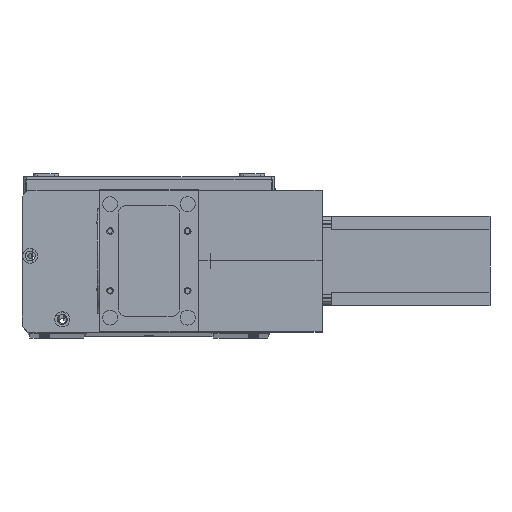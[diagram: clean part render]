
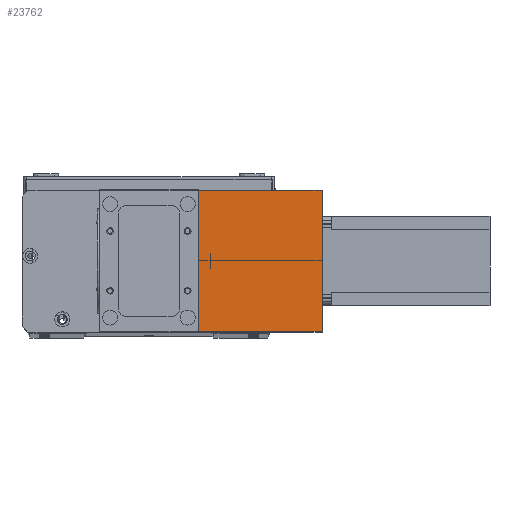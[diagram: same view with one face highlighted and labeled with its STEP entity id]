
A CAD part, top view. The second image highlights one B-rep face of the part: STEP entity #23762.
In plain terms, the highlighted planar face has unit normal (0, 0, 1) as drawn and (1, 0, 0) by its records, which use the part's own axes.
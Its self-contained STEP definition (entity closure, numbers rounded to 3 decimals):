
#166 = LINE ( 'NONE', #11391, #23674 ) ;
#446 = VERTEX_POINT ( 'NONE', #26796 ) ;
#3053 = EDGE_CURVE ( 'NONE', #3216, #20939, #9645, .T. ) ;
#3178 = LINE ( 'NONE', #19173, #13808 ) ;
#3216 = VERTEX_POINT ( 'NONE', #3596 ) ;
#3462 = EDGE_CURVE ( 'NONE', #25380, #3216, #166, .T. ) ;
#3553 = VECTOR ( 'NONE', #3570, 1000. ) ;
#3570 = DIRECTION ( 'NONE',  ( 0., 1., 0. ) ) ;
#3596 = CARTESIAN_POINT ( 'NONE',  ( 82., 0., 0. ) ) ;
#5447 = CARTESIAN_POINT ( 'NONE',  ( 82., 95., 83. ) ) ;
#5484 = CARTESIAN_POINT ( 'NONE',  ( 82., 0., 0. ) ) ;
#6210 = AXIS2_PLACEMENT_3D ( 'NONE', #20558, #9323, #25015 ) ;
#7061 = PLANE ( 'NONE',  #6210 ) ;
#9323 = DIRECTION ( 'NONE',  ( -1., 0., 0. ) ) ;
#9645 = LINE ( 'NONE', #5484, #3553 ) ;
#10602 = DIRECTION ( 'NONE',  ( 0., 0., -1. ) ) ;
#11391 = CARTESIAN_POINT ( 'NONE',  ( 82., 0., 83. ) ) ;
#11891 = ORIENTED_EDGE ( 'NONE', *, *, #23935, .F. ) ;
#13808 = VECTOR ( 'NONE', #14706, 1000. ) ;
#14080 = ORIENTED_EDGE ( 'NONE', *, *, #3462, .T. ) ;
#14594 = EDGE_LOOP ( 'NONE', ( #16519, #11891, #25301, #14080 ) ) ;
#14706 = DIRECTION ( 'NONE',  ( 0., 1., 0. ) ) ;
#15256 = VECTOR ( 'NONE', #25698, 1000. ) ;
#16519 = ORIENTED_EDGE ( 'NONE', *, *, #3053, .T. ) ;
#19073 = CARTESIAN_POINT ( 'NONE',  ( 82., 0., 83. ) ) ;
#19173 = CARTESIAN_POINT ( 'NONE',  ( 82., 0., 83. ) ) ;
#20558 = CARTESIAN_POINT ( 'NONE',  ( 82., 0., 83. ) ) ;
#20606 = CARTESIAN_POINT ( 'NONE',  ( 82., 95., 0. ) ) ;
#20939 = VERTEX_POINT ( 'NONE', #20606 ) ;
#21309 = LINE ( 'NONE', #5447, #15256 ) ;
#23674 = VECTOR ( 'NONE', #10602, 1000. ) ;
#23762 = ADVANCED_FACE ( 'NONE', ( #24750 ), #7061, .F. ) ;
#23935 = EDGE_CURVE ( 'NONE', #446, #20939, #21309, .T. ) ;
#24750 = FACE_OUTER_BOUND ( 'NONE', #14594, .T. ) ;
#25002 = EDGE_CURVE ( 'NONE', #25380, #446, #3178, .T. ) ;
#25015 = DIRECTION ( 'NONE',  ( 0., 0., 1. ) ) ;
#25301 = ORIENTED_EDGE ( 'NONE', *, *, #25002, .F. ) ;
#25380 = VERTEX_POINT ( 'NONE', #19073 ) ;
#25698 = DIRECTION ( 'NONE',  ( 0., 0., -1. ) ) ;
#26796 = CARTESIAN_POINT ( 'NONE',  ( 82., 95., 83. ) ) ;
